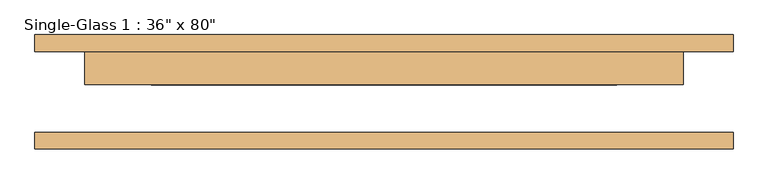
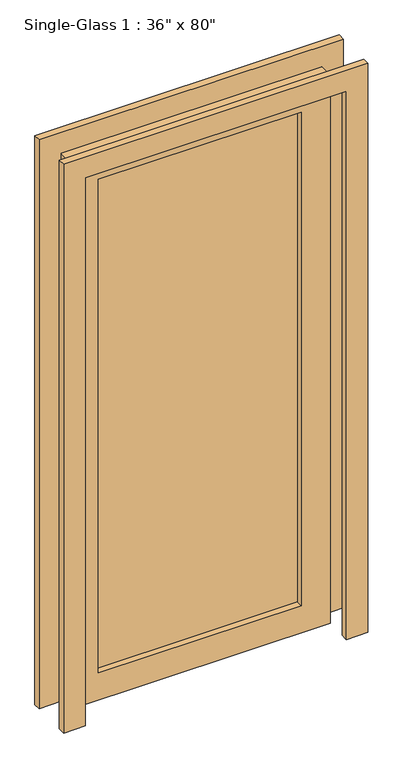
"""IFC4 building model written with IfcOpenShell, lengths in millimetres: door geometry."""

from ifc_helpers import new_model, si_unit, frame, origin, place, context, project, spatial, polyline, outline, extrude, source, transform, mapped, element, save


def door_29a6ff79(model_context):
    return source(origin(), model_context, "Body", "SweptSolid", [
        extrude(outline(polyline([(2032.0, 457.2), (0.0, 457.2), (0.0, 533.4), (2108.2, 533.4), (2108.2, -533.4), (0.0, -533.4), (0.0, -457.2), (2032.0, -457.2), (2032.0, 457.2)])), frame((0.0, -87.3125, 0.0), z_axis=(0.0, 1.0, 0.0), x_axis=(0.0, 0.0, 1.0)), (0.0, 0.0, 1.0), 25.4),
        extrude(outline(polyline([(2032.0, 457.2), (0.0, 457.2), (0.0, 533.4), (2108.2, 533.4), (2108.2, -533.4), (0.0, -533.4), (0.0, -457.2), (2032.0, -457.2), (2032.0, 457.2)])), frame((0.0, 61.9125, 0.0), z_axis=(0.0, 1.0, 0.0), x_axis=(0.0, 0.0, 1.0)), (0.0, 0.0, 1.0), 25.4),
        extrude(outline(polyline([(355.6, 33.3375), (-355.6, 33.3375), (-355.6, 39.6875), (355.6, 39.6875), (355.6, 33.3375)])), frame((0.0, 0.0, 101.6), z_axis=(0.0, 0.0, 1.0), x_axis=(1.0, 0.0, 0.0)), (0.0, 0.0, 1.0), 1828.8),
        extrude(outline(polyline([(2032.0, 457.2), (2032.0, -457.2), (0.0, -457.2), (0.0, 457.2), (2032.0, 457.2)]), holes=[polyline([(1930.4, -355.6), (1930.4, 355.6), (101.6, 355.6), (101.6, -355.6), (1930.4, -355.6)])]), frame((0.0, 11.1125, 0.0), z_axis=(0.0, 1.0, 0.0), x_axis=(0.0, 0.0, 1.0)), (0.0, 0.0, 1.0), 50.8),
    ])


if __name__ == "__main__":
    model = new_model("IFC4")
    model_context = context("Model", 3, world=origin())
    ifc_project = project(units=[si_unit("LENGTHUNIT", "METRE", prefix="MILLI")], contexts=[model_context])
    site = spatial("IfcSite", under=ifc_project)
    building = spatial("IfcBuilding", under=site)
    placement = place(None, origin())
    door_shape = door_29a6ff79(model_context)
    element("IfcDoor", 1, ObjectType="Single-Glass 1 : 36\" x 80\"", at=placement, inside=building, context=model_context, shape_type="MappedRepresentation", body=[
        mapped(door_shape, transform((0.0, 0.0, 0.0), x_axis=(1.0, 0.0, 0.0), y_axis=(0.0, 1.0, 0.0), z_axis=(0.0, 0.0, 1.0))),
    ])
    save(model, "model.ifc")
